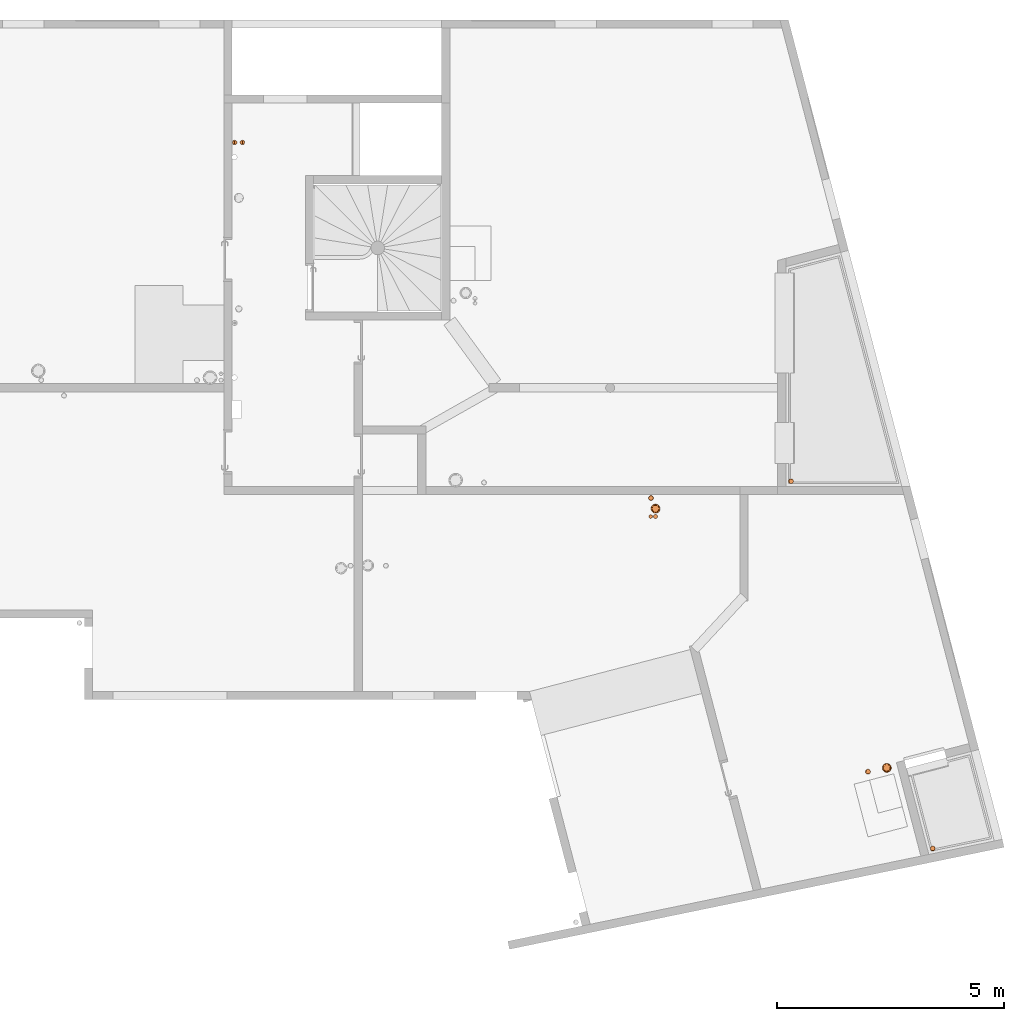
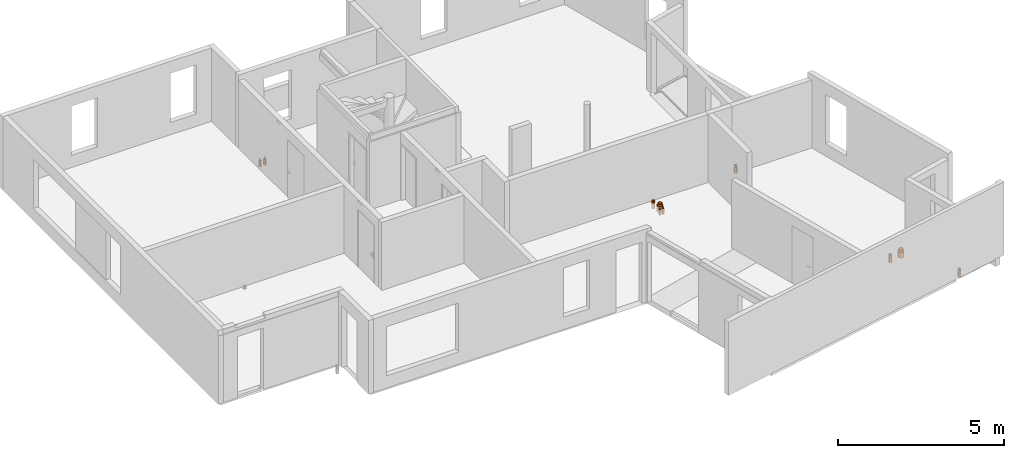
# One storey, part 23 of 24: 10 proxies.
"""IFC2X3 building model written with IfcOpenShell, lengths in centimetres."""

import ifcopenshell
import ifcopenshell.guid

model = None  # the IFC model being written
_history = None  # IfcOwnerHistory: only IFC2X3 demands one
_inside = {}  # id of a spatial element -> (the spatial element, [elements in it])
_under = {}  # id of a project, library or spatial element -> (it, [spatial elements below it])
_declared = {}  # id of a project -> (the project, [libraries it declares])
_typed = {}  # id of a type object -> (the type object, [elements of that type])
_made_of = {}  # id of a material, layer set ... -> (it, [elements and type objects made of it])


def new_model(schema):
    """Start an empty IFC model of exactly this schema.

    Asked for "IFC4X3", IfcOpenShell would pick the latest addendum, in which some entities
    have other attributes; the version numbers below select the first issue.
    IFC2X3 requires an IfcOwnerHistory on every rooted entity: one is made here for all.
    """
    global model, _history
    if schema == "IFC4X3":
        model = ifcopenshell.file(schema_version=(4, 3, 0, 0))
    else:
        model = ifcopenshell.file(schema=schema)
    _inside.clear()
    _under.clear()
    _declared.clear()
    _typed.clear()
    _made_of.clear()
    _history = None
    if model.schema == "IFC2X3":
        org = make("IfcOrganization", Name="unknown")
        user = make(
            "IfcPersonAndOrganization",
            ThePerson=make("IfcPerson", FamilyName="unknown"),
            TheOrganization=org,
        )
        app = make(
            "IfcApplication",
            ApplicationDeveloper=org,
            Version="unknown",
            ApplicationFullName="unknown",
            ApplicationIdentifier="unknown",
        )
        _history = make(
            "IfcOwnerHistory",
            OwningUser=user,
            OwningApplication=app,
            ChangeAction="ADDED",
            CreationDate=0,
        )
    return model


def make(cls, **values):
    """One entity of the class cls with the attributes given. An attribute that is None is left unset."""
    return model.create_entity(
        cls, **{name: value for name, value in values.items() if value is not None}
    )


def entity(cls, *values):
    """Any entity or typed value of the class cls, its attributes in the order of the schema. None: left unset."""
    e = model.create_entity(cls)
    for i, value in enumerate(values):
        if value is not None:
            e[i] = value
    return e


def rooted(cls, **values):
    """An entity with a GlobalId (a new one), such as an element, a storey or a relation."""
    return make(cls, GlobalId=ifcopenshell.guid.new(), OwnerHistory=_history, **values)


def si_unit(unit_type, name, prefix=None):
    """IfcSIUnit, for example si_unit("LENGTHUNIT", "METRE", prefix="MILLI")."""
    return make("IfcSIUnit", UnitType=unit_type, Prefix=prefix, Name=name)


def converted_unit(unit_type, name, factor, base, dimensions=None, offset=None):
    """IfcConversionBasedUnit, such as the inch: factor (a typed value) times the base unit."""
    return make(
        "IfcConversionBasedUnit"
        if offset is None
        else "IfcConversionBasedUnitWithOffset",
        ConversionOffset=offset,
        Dimensions=None
        if dimensions is None
        else entity("IfcDimensionalExponents", *dimensions),
        UnitType=unit_type,
        Name=name,
        ConversionFactor=make(
            "IfcMeasureWithUnit", ValueComponent=factor, UnitComponent=base
        ),
    )


def derived_unit(unit_type, elements):
    """IfcDerivedUnit: a product of units, each with its exponent."""
    return make(
        "IfcDerivedUnit",
        Elements=[
            make("IfcDerivedUnitElement", Unit=unit, Exponent=power)
            for unit, power in elements
        ],
        UnitType=unit_type,
    )


def assignment(units):
    """IfcUnitAssignment: the units of a project."""
    return None if units is None else make("IfcUnitAssignment", Units=units)


def point(xyz):
    """IfcCartesianPoint."""
    return None if xyz is None else make("IfcCartesianPoint", Coordinates=xyz)


def direction(xyz):
    """IfcDirection."""
    return None if xyz is None else make("IfcDirection", DirectionRatios=xyz)


def frame(location, z_axis=None, x_axis=None):
    """IfcAxis2Placement3D, a coordinate frame: its origin and axes. An axis left out is left unset."""
    return make(
        "IfcAxis2Placement3D",
        Location=point(location),
        Axis=direction(z_axis),
        RefDirection=direction(x_axis),
    )


def frame_2d(location, x_axis=None):
    """IfcAxis2Placement2D, a coordinate frame in the plane: its origin and x axis."""
    return make(
        "IfcAxis2Placement2D", Location=point(location), RefDirection=direction(x_axis)
    )


def origin():
    """The frame at (0, 0, 0) with its axes left unset."""
    return frame((0.0, 0.0, 0.0))


def place(relative_to, where):
    """IfcLocalPlacement: puts the frame where relative to a parent placement (None: the world)."""
    return make(
        "IfcLocalPlacement", PlacementRelTo=relative_to, RelativePlacement=where
    )


def context(
    kind, dimensions, precision=None, world=None, true_north=None, identifier=None
):
    """IfcGeometricRepresentationContext, for example the 3D "Model" context."""
    return make(
        "IfcGeometricRepresentationContext",
        ContextIdentifier=identifier,
        ContextType=kind,
        CoordinateSpaceDimension=dimensions,
        Precision=precision,
        WorldCoordinateSystem=world,
        TrueNorth=true_north,
    )


def subcontext(parent, identifier, kind, view, scale=None):
    """IfcGeometricRepresentationSubContext, for example "Body" below "Model"."""
    return make(
        "IfcGeometricRepresentationSubContext",
        ContextIdentifier=identifier,
        ContextType=kind,
        ParentContext=parent,
        TargetScale=scale,
        TargetView=view,
    )


def project(units=None, contexts=None):
    """IfcProject with its units and contexts."""
    return rooted(
        "IfcProject",
        Name="project",
        RepresentationContexts=contexts,
        UnitsInContext=assignment(units),
    )


def spatial(cls, under=None, at=None, **own):
    """A site, building, storey or space (cls), placed at a placement, below another one or the project."""
    s = rooted(cls, ObjectPlacement=at, **own)
    if under is not None:
        _under.setdefault(under.id(), (under, []))[1].append(s)
    return s


def profile(cls, at=None, kind="AREA", **sizes):
    """A parametric profile (cls). Its sizes go by their IFC names, for example OverallWidth=200.0."""
    return make(cls, ProfileType=kind, Position=at, **sizes)


def circle(**sizes):
    """IfcCircleProfileDef."""
    return profile("IfcCircleProfileDef", **sizes)


def hollow_circle(**sizes):
    """IfcCircleHollowProfileDef."""
    return profile("IfcCircleHollowProfileDef", **sizes)


def extrude(swept, where, along, depth):
    """IfcExtrudedAreaSolid: the profile swept, set in the frame where, extruded along a direction by depth."""
    return make(
        "IfcExtrudedAreaSolid",
        SweptArea=swept,
        Position=where,
        ExtrudedDirection=direction(along),
        Depth=depth,
    )


def shape(context_of_items, identifier, shape_type, items):
    """IfcShapeRepresentation: the items that make up one representation, for example the "Body"."""
    return make(
        "IfcShapeRepresentation",
        ContextOfItems=context_of_items,
        RepresentationIdentifier=identifier,
        RepresentationType=shape_type,
        Items=items,
    )


def source(mapping_origin, context_of_items, identifier, shape_type, items):
    """IfcRepresentationMap: a shape defined once, which mapped items show again and again."""
    return make(
        "IfcRepresentationMap",
        MappingOrigin=mapping_origin,
        MappedRepresentation=shape(context_of_items, identifier, shape_type, items),
    )


def transform(
    local_origin,
    x_axis=None,
    y_axis=None,
    z_axis=None,
    scale=None,
    scale2=None,
    scale3=None,
    uniform=True,
):
    """IfcCartesianTransformationOperator3D, or its non-uniform kind. x_axis, y_axis, z_axis: its Axis1, 2, 3."""
    if uniform:
        return make(
            "IfcCartesianTransformationOperator3D",
            Axis1=direction(x_axis),
            Axis2=direction(y_axis),
            LocalOrigin=point(local_origin),
            Scale=scale,
            Axis3=direction(z_axis),
        )
    return make(
        "IfcCartesianTransformationOperator3DnonUniform",
        Axis1=direction(x_axis),
        Axis2=direction(y_axis),
        LocalOrigin=point(local_origin),
        Scale=scale,
        Axis3=direction(z_axis),
        Scale2=scale2,
        Scale3=scale3,
    )


def mapped(mapping_source, mapping_target):
    """IfcMappedItem: shows the shape of a source again, moved by a transform."""
    return make(
        "IfcMappedItem", MappingSource=mapping_source, MappingTarget=mapping_target
    )


def material(Name=None, Category=None):
    """IfcMaterial."""
    return make("IfcMaterial", Name=Name, Category=Category)


def made_of(thing, what):
    """Note that an element or type object is made of a material, layer set ...; save() writes the relation."""
    if what is not None:
        _made_of.setdefault(what.id(), (what, []))[1].append(thing)
    return thing


def type_object(cls, material=None, **own):
    """A type object (cls), such as IfcWallType, which elements share."""
    return made_of(rooted(cls, **own), material)


def type_shapes(of_type, sources):
    """Give a type object the sources (RepresentationMaps) that its elements show as mapped items."""
    of_type.RepresentationMaps = sources


def element(
    cls,
    number,
    at=None,
    inside=None,
    cuts=None,
    type_object=None,
    material=None,
    context=None,
    identifier="Body",
    shape_type=None,
    held_by="IfcProductDefinitionShape",
    body=None,
    shapes=None,
    **own,
):
    """One element of the class cls, such as IfcWall. Its Tag is "e" and its number.

    at: its placement. inside: the storey or other place that contains it. cuts: it is an
    opening in that element (IfcRelVoidsElement). A single representation is given by context,
    identifier, shape_type and body (its items); several are given by shapes. held_by: the class
    of the entity that holds the representations. save() writes the other relations.
    """
    e = rooted(cls, Tag="e%d" % number, ObjectPlacement=at, **own)
    if body is not None:
        shapes = [shape(context, identifier, shape_type, body)]
    if shapes is not None:
        e.Representation = make(held_by, Representations=shapes)
    if inside is not None:
        _inside.setdefault(inside.id(), (inside, []))[1].append(e)
    if cuts is not None:
        rooted(
            "IfcRelVoidsElement", RelatingBuildingElement=cuts, RelatedOpeningElement=e
        )
    if type_object is not None:
        _typed.setdefault(type_object.id(), (type_object, []))[1].append(e)
    return made_of(e, material)


def aggregate(whole, parts):
    """IfcRelAggregates: a whole, such as a stair, and the parts it consists of."""
    return rooted("IfcRelAggregates", RelatingObject=whole, RelatedObjects=parts)


def save(model, path):
    """Write the relations noted so far, then the file.

    IfcRelAggregates (storeys below a building ...), IfcRelContainedInSpatialStructure (elements
    in a storey), IfcRelDefinesByType, IfcRelAssociatesMaterial and IfcRelDeclares: one each for
    every whole, place, type object, material and project.
    """
    for whole, parts in _under.values():
        aggregate(whole, parts)
    for where, things in _inside.values():
        rooted(
            "IfcRelContainedInSpatialStructure",
            RelatedElements=things,
            RelatingStructure=where,
        )
    for kind, things in _typed.values():
        rooted("IfcRelDefinesByType", RelatedObjects=things, RelatingType=kind)
    for what, things in _made_of.values():
        rooted("IfcRelAssociatesMaterial", RelatedObjects=things, RelatingMaterial=what)
    for by, libraries in _declared.values():
        rooted("IfcRelDeclares", RelatingContext=by, RelatedDefinitions=libraries)
    model.write(path)


model = new_model("IFC2X3")

# Units and contexts
model_context = context("Model", 3, precision=0.001, world=origin(), true_north=direction((6.12303176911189e-17, 1.0)))
body_context = subcontext(model_context, "Body", "Model", "MODEL_VIEW")
ifc_project = project(units=[si_unit("LENGTHUNIT", "METRE", prefix="CENTI"), si_unit("AREAUNIT", "SQUARE_METRE"), si_unit("VOLUMEUNIT", "CUBIC_METRE"), converted_unit("PLANEANGLEUNIT", "DEGREE", entity("IfcRatioMeasure", 0.0174532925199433), si_unit("PLANEANGLEUNIT", "RADIAN"), dimensions=[0, 0, 0, 0, 0, 0, 0]), si_unit("MASSUNIT", "GRAM", prefix="KILO"), derived_unit("MASSDENSITYUNIT", [(si_unit("MASSUNIT", "GRAM", prefix="KILO"), 1), (si_unit("LENGTHUNIT", "METRE"), -3)]), si_unit("TIMEUNIT", "SECOND"), si_unit("FREQUENCYUNIT", "HERTZ"), si_unit("THERMODYNAMICTEMPERATUREUNIT", "DEGREE_CELSIUS"), derived_unit("THERMALTRANSMITTANCEUNIT", [(si_unit("MASSUNIT", "GRAM", prefix="KILO"), 1), (si_unit("THERMODYNAMICTEMPERATUREUNIT", "KELVIN"), -1), (si_unit("TIMEUNIT", "SECOND"), -3)]), derived_unit("VOLUMETRICFLOWRATEUNIT", [(si_unit("LENGTHUNIT", "METRE"), 3), (si_unit("TIMEUNIT", "SECOND"), -1)]), si_unit("ELECTRICCURRENTUNIT", "AMPERE"), si_unit("ELECTRICVOLTAGEUNIT", "VOLT"), si_unit("POWERUNIT", "WATT"), si_unit("FORCEUNIT", "NEWTON"), si_unit("ILLUMINANCEUNIT", "LUX"), si_unit("LUMINOUSFLUXUNIT", "LUMEN"), si_unit("LUMINOUSINTENSITYUNIT", "CANDELA"), derived_unit("USERDEFINED", [(si_unit("MASSUNIT", "GRAM", prefix="KILO"), -1), (si_unit("LENGTHUNIT", "METRE"), -2), (si_unit("TIMEUNIT", "SECOND"), 3), (si_unit("LUMINOUSFLUXUNIT", "LUMEN"), 1)]), derived_unit("LINEARVELOCITYUNIT", [(si_unit("LENGTHUNIT", "METRE"), 1), (si_unit("TIMEUNIT", "SECOND"), -1)]), si_unit("PRESSUREUNIT", "PASCAL"), derived_unit("USERDEFINED", [(si_unit("LENGTHUNIT", "METRE"), -2), (si_unit("MASSUNIT", "GRAM", prefix="KILO"), 1), (si_unit("TIMEUNIT", "SECOND"), -2)])], contexts=[model_context])

# Site, building, storey
site_placement = place(None, origin())
site = spatial("IfcSite", under=ifc_project, at=site_placement, Name="Default", CompositionType="ELEMENT")
building_placement = place(site_placement, origin())
building = spatial("IfcBuilding", under=site, at=building_placement, Name="CAGE 03", CompositionType="ELEMENT")
storey_placement = place(building_placement, frame((0.0, 0.0, 1150.0)))
storey = spatial("IfcBuildingStorey", under=building, at=storey_placement, Name="R+4", CompositionType="ELEMENT", Elevation=1150.0)

# Proxies
ifc_material_1 = material(Name="Conduit EP")
building_element_proxy_type_1 = type_object("IfcBuildingElementProxyType", Name="EP 101", PredefinedType="NOTDEFINED", material=ifc_material_1)
shared_shape_1 = source(origin(), body_context, "Body", "SweptSolid", [
    extrude(circle(Radius=5.5, at=frame_2d((0.0, -8.88549515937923e-15), x_axis=(1.0, 0.0))), frame((0.0, 0.0, -21.0)), (0.0, 0.0, 1.0), 21.0),
    extrude(hollow_circle(Radius=5.0, WallThickness=0.25, at=frame_2d((0.0, -8.07772287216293e-15), x_axis=(1.0, 0.0))), frame((0.0, 0.0, -21.0)), (0.0, 0.0, 1.0), 28.5),
])
type_shapes(building_element_proxy_type_1, [shared_shape_1])
for number, where, name in (
    (1, (11259.4519491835, 4277.82138926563, -4.46999754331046e-07), "Galette - Résa - PVC3:EP 101"),
    (2, (11571.763519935, 3468.87960442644, -4.46999754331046e-07), "Galette - Résa - PVC3:EP 101"),
):
    element("IfcBuildingElementProxy", number, at=place(storey_placement, frame(where)), inside=storey, type_object=building_element_proxy_type_1, material=ifc_material_1, Name=name, ObjectType="EP 101", context=body_context, shape_type="MappedRepresentation", body=[
        mapped(shared_shape_1, transform((0.0, 0.0, 0.0), scale=1.0)),
    ])
ifc_material_2 = material(Name="Circuit CHF Aller")
building_element_proxy_type_2 = type_object("IfcBuildingElementProxyType", Name="CHF Aller 41", PredefinedType="NOTDEFINED", material=ifc_material_2)
shared_shape_2 = source(origin(), body_context, "Body", "SweptSolid", [
    extrude(circle(Radius=5.0, at=frame_2d((0.0, -8.07772287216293e-15), x_axis=(1.0, 0.0))), frame((0.0, 0.0, -21.0)), (0.0, 0.0, 1.0), 21.0),
    extrude(hollow_circle(Radius=2.0, WallThickness=0.4, at=frame_2d((0.0, -3.23108914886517e-15), x_axis=(1.0, 0.0))), frame((0.0, 0.0, -21.0)), (0.0, 0.0, 1.0), 28.5),
])
type_shapes(building_element_proxy_type_2, [shared_shape_2])
proxy_1_placement = place(storey_placement, frame((10034.3670007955, 5023.89084226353, -4.46999754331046e-07)))
element("IfcBuildingElementProxy", 3, at=proxy_1_placement, inside=storey, type_object=building_element_proxy_type_2, material=ifc_material_2, Name="Galette - Résa - PVC3:CHF Aller 41", ObjectType="CHF Aller 41", context=body_context, shape_type="MappedRepresentation", body=[
    mapped(shared_shape_2, transform((0.0, 0.0, 0.0), scale=1.0)),
])
ifc_material_3 = material(Name="Circuit CHF Retour")
building_element_proxy_type_3 = type_object("IfcBuildingElementProxyType", Name="CHF Retour 43", PredefinedType="NOTDEFINED", material=ifc_material_3)
shared_shape_3 = source(origin(), body_context, "Body", "SweptSolid", [
    extrude(circle(Radius=5.0, at=frame_2d((0.0, -8.07772287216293e-15), x_axis=(1.0, 0.0))), frame((0.0, 0.0, -21.0)), (0.0, 0.0, 1.0), 21.0),
    extrude(hollow_circle(Radius=2.0, WallThickness=0.4, at=frame_2d((0.0, -3.23108914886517e-15), x_axis=(1.0, 0.0))), frame((0.0, 0.0, -21.0)), (0.0, 0.0, 1.0), 28.5),
])
type_shapes(building_element_proxy_type_3, [shared_shape_3])
proxy_2_placement = place(storey_placement, frame((10051.3670007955, 5023.89084226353, -4.46999754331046e-07)))
element("IfcBuildingElementProxy", 4, at=proxy_2_placement, inside=storey, type_object=building_element_proxy_type_3, material=ifc_material_3, Name="Galette - Résa - PVC3:CHF Retour 43", ObjectType="CHF Retour 43", context=body_context, shape_type="MappedRepresentation", body=[
    mapped(shared_shape_3, transform((0.0, 0.0, 0.0), scale=1.0)),
])
ifc_material_4 = material(Name="Conduit EU")
building_element_proxy_type_4 = type_object("IfcBuildingElementProxyType", Name="CFO125 P110", PredefinedType="NOTDEFINED", material=ifc_material_4)
shared_shape_4 = source(origin(), body_context, "Body", "SweptSolid", [
    extrude(circle(Radius=5.5, at=frame_2d((0.0, -8.88549515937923e-15), x_axis=(1.0, 0.0))), frame((0.0, 0.0, -21.0)), (0.0, 0.0, 1.0), 21.0),
    extrude(hollow_circle(Radius=5.0, WallThickness=0.25, at=frame_2d((0.0, -8.07772287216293e-15), x_axis=(1.0, 0.0))), frame((0.0, 0.0, -21.0)), (0.0, 0.0, 1.0), 28.5),
])
type_shapes(building_element_proxy_type_4, [shared_shape_4])
proxy_3_placement = place(storey_placement, frame((10951.298179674, 4240.82138926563, -4.46999754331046e-07)))
element("IfcBuildingElementProxy", 5, at=proxy_3_placement, inside=storey, type_object=building_element_proxy_type_4, material=ifc_material_4, Name="Galette - Résa - PVC3:CFO125 P110", ObjectType="CFO125 P110", context=body_context, shape_type="MappedRepresentation", body=[
    mapped(shared_shape_4, transform((0.0, 0.0, 0.0), scale=1.0)),
])
proxy_4_placement = place(storey_placement, frame((11428.9637022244, 3638.21161603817, -4.46999754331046e-07), z_axis=(0.0, 0.0, 1.0), x_axis=(0.96754998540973, 0.252679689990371, 0.0)))
element("IfcBuildingElementProxy", 6, at=proxy_4_placement, inside=storey, type_object=building_element_proxy_type_4, material=ifc_material_4, Name="Galette - Résa - PVC3:CFO125 P110", ObjectType="CFO125 P110", context=body_context, shape_type="MappedRepresentation", body=[
    mapped(shared_shape_4, transform((0.0, 0.0, 0.0), scale=1.0)),
])
ifc_material_5 = material(Name="Circuit ECS Retour")
building_element_proxy_type_5 = type_object("IfcBuildingElementProxyType", Name="CFO100 P80", PredefinedType="NOTDEFINED", material=ifc_material_5)
shared_shape_5 = source(origin(), body_context, "Body", "SweptSolid", [
    extrude(circle(Radius=4.0, at=frame_2d((0.0, -6.46217829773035e-15), x_axis=(1.0, 0.0))), frame((0.0, 0.0, -21.0)), (0.0, 0.0, 1.0), 21.0),
    extrude(hollow_circle(Radius=1.0, WallThickness=0.0500000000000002, at=frame_2d((0.0, -1.61554457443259e-15), x_axis=(1.0, 0.0))), frame((0.0, 0.0, -21.0)), (0.0, 0.0, 1.0), 28.5),
])
type_shapes(building_element_proxy_type_5, [shared_shape_5])
proxy_5_placement = place(storey_placement, frame((10950.5781146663, 4200.15581262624, -4.46999754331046e-07)))
element("IfcBuildingElementProxy", 7, at=proxy_5_placement, inside=storey, type_object=building_element_proxy_type_5, material=ifc_material_5, Name="Galette - Résa - PVC3:CFO100 P80", ObjectType="CFO100 P80", context=body_context, shape_type="MappedRepresentation", body=[
    mapped(shared_shape_5, transform((0.0, 0.0, 0.0), scale=1.0)),
])
ifc_material_6 = material(Name="Circuit ECS Aller")
building_element_proxy_type_6 = type_object("IfcBuildingElementProxyType", Name="CFO100 P90", PredefinedType="NOTDEFINED", material=ifc_material_6)
shared_shape_6 = source(origin(), body_context, "Body", "SweptSolid", [
    extrude(circle(Radius=4.5, at=frame_2d((0.0, -7.26995058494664e-15), x_axis=(1.0, 0.0))), frame((0.0, 0.0, -21.0)), (0.0, 0.0, 1.0), 21.0),
    extrude(hollow_circle(Radius=1.6, WallThickness=0.05, at=frame_2d((0.0, -2.58487131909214e-15), x_axis=(1.0, 0.0))), frame((0.0, 0.0, -21.0)), (0.0, 0.0, 1.0), 28.5),
])
type_shapes(building_element_proxy_type_6, [shared_shape_6])
proxy_6_placement = place(storey_placement, frame((10961.1967817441, 4200.15581262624, -4.46999754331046e-07)))
element("IfcBuildingElementProxy", 8, at=proxy_6_placement, inside=storey, type_object=building_element_proxy_type_6, material=ifc_material_6, Name="Galette - Résa - PVC3:CFO100 P90", ObjectType="CFO100 P90", context=body_context, shape_type="MappedRepresentation", body=[
    mapped(shared_shape_6, transform((0.0, 0.0, 0.0), scale=1.0)),
])
ifc_material_7 = material(Name="Conduit VMC")
building_element_proxy_type_7 = type_object("IfcBuildingElementProxyType", Name="CFO200 P170", PredefinedType="NOTDEFINED", material=ifc_material_7)
shared_shape_7 = source(origin(), body_context, "Body", "SweptSolid", [
    extrude(circle(Radius=10.0, at=frame_2d((0.0, -1.61554457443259e-14), x_axis=(1.0, 0.0))), frame((0.0, 0.0, -21.0)), (0.0, 0.0, 1.0), 21.0),
    extrude(hollow_circle(Radius=8.0, WallThickness=0.500000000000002, at=frame_2d((0.0, -1.29243565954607e-14), x_axis=(1.0, 0.0))), frame((0.0, 0.0, -21.0)), (0.0, 0.0, 1.0), 28.5),
])
type_shapes(building_element_proxy_type_7, [shared_shape_7])
proxy_7_placement = place(storey_placement, frame((10961.2981796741, 4217.53269131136, -4.46999754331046e-07)))
element("IfcBuildingElementProxy", 9, at=proxy_7_placement, inside=storey, type_object=building_element_proxy_type_7, material=ifc_material_7, Name="Galette - Résa - PVC3:CFO200 P170", ObjectType="CFO200 P170", context=body_context, shape_type="MappedRepresentation", body=[
    mapped(shared_shape_7, transform((0.0, 0.0, 0.0), scale=1.0)),
])
proxy_8_placement = place(storey_placement, frame((11470.6360049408, 3646.5871587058, -4.46999754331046e-07), z_axis=(0.0, 0.0, 1.0), x_axis=(0.96754998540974, 0.252679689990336, 0.0)))
element("IfcBuildingElementProxy", 10, at=proxy_8_placement, inside=storey, type_object=building_element_proxy_type_7, material=ifc_material_7, Name="Galette - Résa - PVC3:CFO200 P170", ObjectType="CFO200 P170", context=body_context, shape_type="MappedRepresentation", body=[
    mapped(shared_shape_7, transform((0.0, 0.0, 0.0), scale=1.0)),
])

save(model, "model.ifc")
